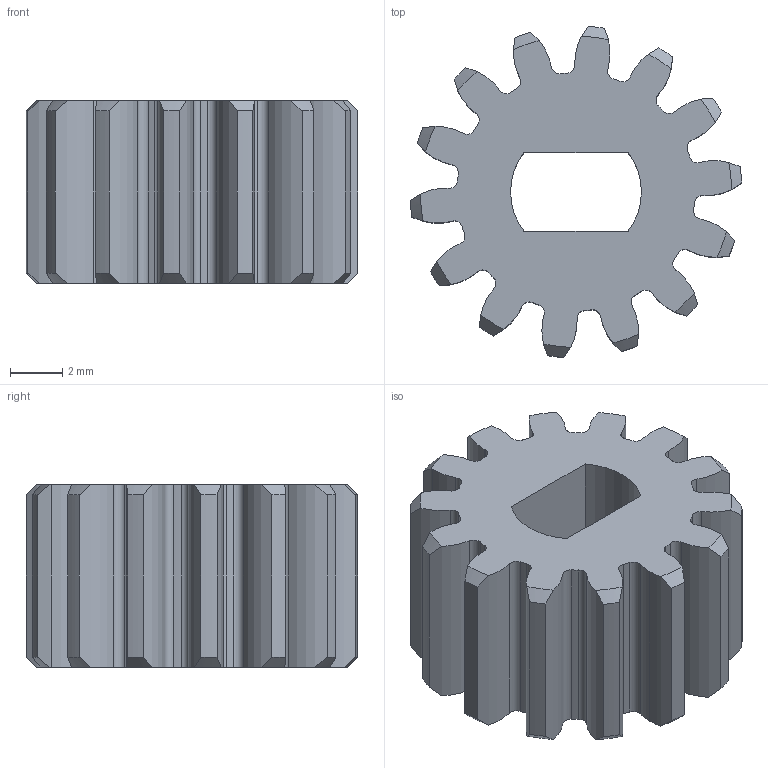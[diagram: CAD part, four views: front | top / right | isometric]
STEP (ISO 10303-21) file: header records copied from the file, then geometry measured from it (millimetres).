
FILE_DESCRIPTION (( 'STEP AP214' ), '1' );
FILE_NAME ('32-14 motor gear.STEP', '2021-02-04T23:08:33', ( '' ), ( '' ), 'SwSTEP 2.0', 'SolidWorks 2020', '' );
FILE_SCHEMA (( 'AUTOMOTIVE_DESIGN' ));
Length unit declared in the file: millimetre
Products named in the file (1): 32-14 motor gear
Bounding box: 12.68 x 12.67 x 7 mm (x, y, z)
Volume: 564.7 mm3; surface area: 747.8 mm2
Topology: 1 solids, 1 shells, 129 faces, 381 edges, 254 vertices
Faces by surface type: cylinder 97, cone 28, plane 4
Entity records: 4531 total; most frequent: CARTESIAN_POINT 933, DIRECTION 807, ORIENTED_EDGE 762, EDGE_CURVE 381, AXIS2_PLACEMENT_3D 352, VERTEX_POINT 254, CIRCLE 222, EDGE_LOOP 131
